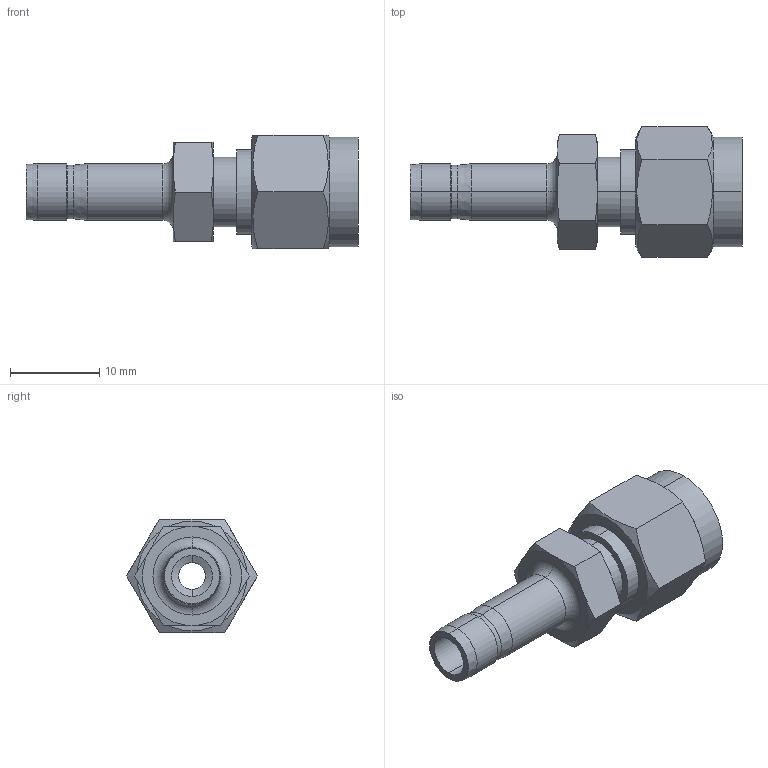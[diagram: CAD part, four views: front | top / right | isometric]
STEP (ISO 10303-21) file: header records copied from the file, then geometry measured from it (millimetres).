
FILE_DESCRIPTION (( 'STEP AP203' ), '1' );
FILE_NAME ('DRE03-04 SS.STEP', '2009-09-08T08:37:13', ( ' ' ), ( '' ), 'SwSTEP 2.0', 'SolidWorks 2008', '' );
FILE_SCHEMA (( 'CONFIG_CONTROL_DESIGN' ));
Length unit declared in the file: millimetre
Products named in the file (1): DRE03-04 SS
Bounding box: 37.2 x 14.66 x 12.7 mm (x, y, z)
Volume: 2255.7 mm3; surface area: 1982.2 mm2
Topology: 1 solids, 1 shells, 63 faces, 138 edges, 82 vertices
Faces by surface type: cone 24, plane 19, cylinder 18, torus 2
Entity records: 1917 total; most frequent: CARTESIAN_POINT 492, DIRECTION 282, ORIENTED_EDGE 276, EDGE_CURVE 138, AXIS2_PLACEMENT_3D 120, VERTEX_POINT 82, EDGE_LOOP 70, ADVANCED_FACE 63
